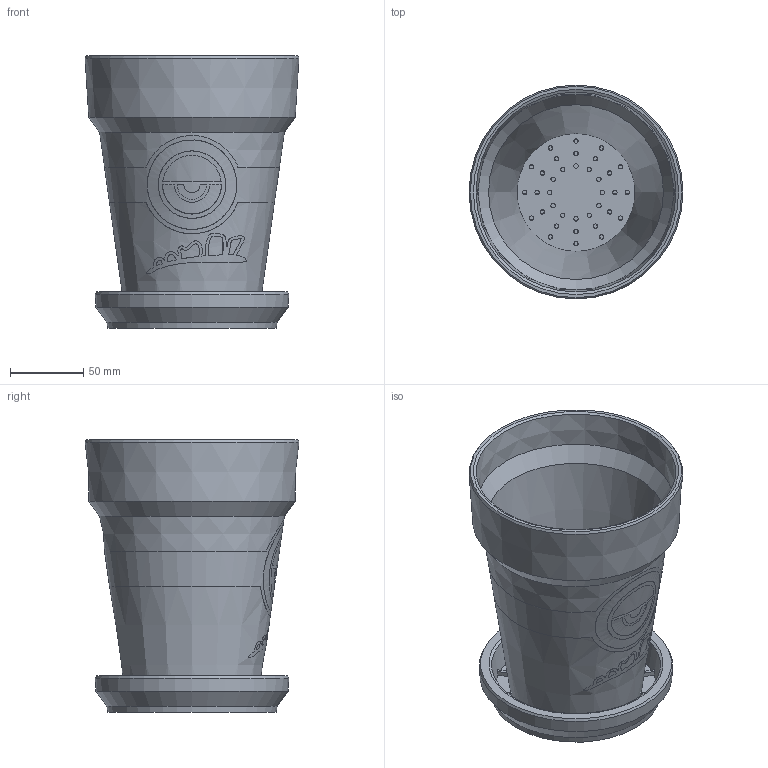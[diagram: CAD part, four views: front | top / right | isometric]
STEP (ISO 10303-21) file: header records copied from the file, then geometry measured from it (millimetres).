
FILE_DESCRIPTION(/* description */ (''),/* implementation_level */ '2;1');
FILE_NAME(/* name */ 'C:/Users/Wilko/Downloads/tmpExports/Evil Minion Planter 01/step/Evil-Minion-Planter-01.step',/* time_stamp */ '2022-06-12T21:40:34+02:00',/* author */ (''),/* organization */ (''),/* preprocessor_version */ 'ST-DEVELOPER v19',/* originating_system */ 'Autodesk Translation Framework v11.7.0.108',/* authorisation */ '');
FILE_SCHEMA (('AUTOMOTIVE_DESIGN { 1 0 10303 214 3 1 1 }'));
Length unit declared in the file: millimetre
Products named in the file (6): Evil Minion Planter 01; Lila; Gray; White; Black; Coster - Black
Assembly tree (5 placements, depth 2):
  Evil Minion Planter 01
    Lila
    Gray
    White
    Black
    Coster - Black
Bounding box: 145.79 x 145.79 x 186 mm (x, y, z)
Volume: 534259 mm3; surface area: 214818.4 mm2
Topology: 12 solids, 12 shells, 415 faces, 1131 edges, 754 vertices
Faces by surface type: plane 272, bspline 62, cone 45, cylinder 36
Full cylindrical faces by diameter (mm): 3 x36
Entity records: 20566 total; most frequent: CARTESIAN_POINT 9983, ORIENTED_EDGE 2262, DIRECTION 1876, EDGE_CURVE 1131, LINE 792, VECTOR 792, VERTEX_POINT 754, AXIS2_PLACEMENT_3D 542
